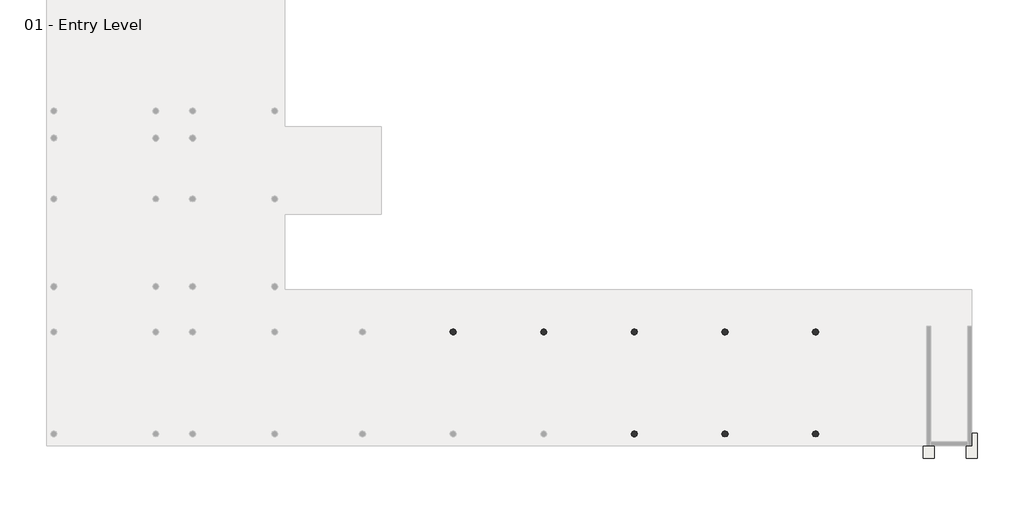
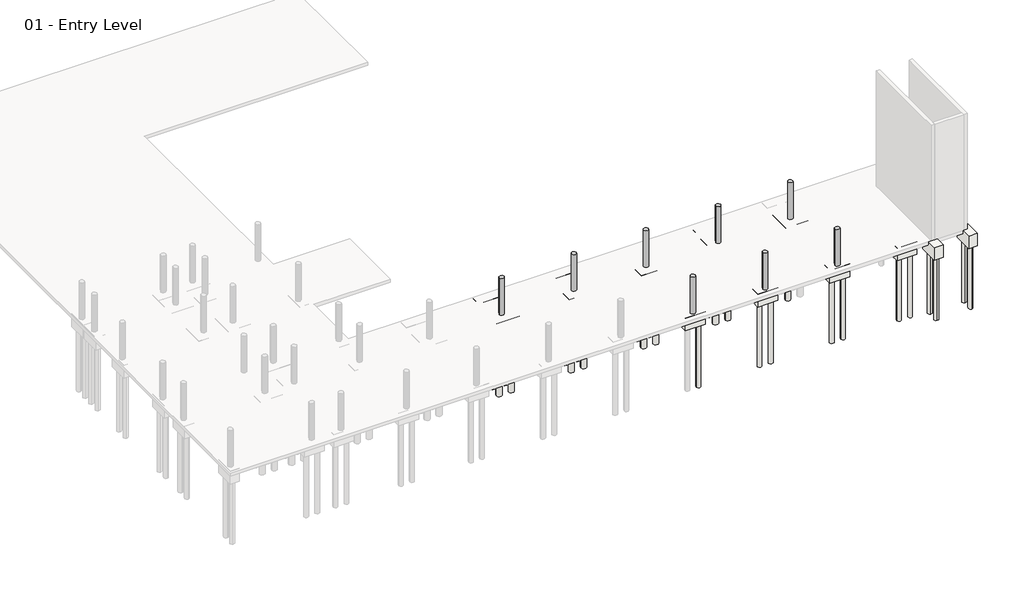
# One storey, part 3 of 6: 55 slabs, 8 columns.
"""IFC4 building model written with IfcOpenShell, lengths in millimetres."""

from ifc_helpers import new_model, si_unit, point, frame, frame_2d, origin, origin_with_axes, place, context, project, spatial, polyline, circle_curve, trimmed, segment, composite_curve, outline, extrude, element, save

model = new_model("IFC4")

# Units and contexts
model_context = context("Model", 3, world=origin())
ifc_project = project(units=[si_unit("LENGTHUNIT", "METRE", prefix="MILLI")], contexts=[model_context])

# Site, building, storey
site = spatial("IfcSite", under=ifc_project)
building = spatial("IfcBuilding", under=site)
storey = spatial("IfcBuildingStorey", under=building, Name="01 - Entry Level", Elevation=0.0)

# Columns
placement = place(None, origin())
element("IfcColumn", 1, ObjectType="M_Concrete-Round-Column : 450mm", at=placement, inside=storey, context=model_context, shape_type="SweptSolid", body=[
    extrude(outline(composite_curve([segment(trimmed(circle_curve(frame_2d((19449.2005584, -15319.8613801)), 225.0), [point((19674.2005584, -15319.8613801))], [point((19224.2005584, -15319.8613801))], False, "CARTESIAN"), True, "CONTINUOUS"), segment(trimmed(circle_curve(frame_2d((19449.2005584, -15319.8613801)), 225.0), [point((19224.2005584, -15319.8613801))], [point((19674.2005584, -15319.8613801))], False, "CARTESIAN"), True, "CONTINUOUS")], self_intersect=False)), origin_with_axes(), (0.0, 0.0, 1.0), 3500.0),
])
element("IfcColumn", 2, ObjectType="M_Concrete-Round-Column : 450mm", at=placement, inside=storey, context=model_context, shape_type="SweptSolid", body=[
    extrude(outline(composite_curve([segment(trimmed(circle_curve(frame_2d((25951.6005584, -15319.8613801)), 225.0), [point((26176.6005584, -15319.8613801))], [point((25726.6005584, -15319.8613801))], False, "CARTESIAN"), True, "CONTINUOUS"), segment(trimmed(circle_curve(frame_2d((25951.6005584, -15319.8613801)), 225.0), [point((25726.6005584, -15319.8613801))], [point((26176.6005584, -15319.8613801))], False, "CARTESIAN"), True, "CONTINUOUS")], self_intersect=False)), origin_with_axes(), (0.0, 0.0, 1.0), 3500.0),
])
element("IfcColumn", 3, ObjectType="M_Concrete-Round-Column : 450mm", at=placement, inside=storey, context=model_context, shape_type="SweptSolid", body=[
    extrude(outline(composite_curve([segment(trimmed(circle_curve(frame_2d((32454.0005584, -15319.8613801)), 225.0), [point((32679.0005584, -15319.8613801))], [point((32229.0005584, -15319.8613801))], False, "CARTESIAN"), True, "CONTINUOUS"), segment(trimmed(circle_curve(frame_2d((32454.0005584, -15319.8613801)), 225.0), [point((32229.0005584, -15319.8613801))], [point((32679.0005584, -15319.8613801))], False, "CARTESIAN"), True, "CONTINUOUS")], self_intersect=False)), origin_with_axes(), (0.0, 0.0, 1.0), 3500.0),
])
element("IfcColumn", 4, ObjectType="M_Concrete-Round-Column : 450mm", at=placement, inside=storey, context=model_context, shape_type="SweptSolid", body=[
    extrude(outline(composite_curve([segment(trimmed(circle_curve(frame_2d((32454.0005584, -22635.0613801)), 225.0), [point((32679.0005584, -22635.0613801))], [point((32229.0005584, -22635.0613801))], False, "CARTESIAN"), True, "CONTINUOUS"), segment(trimmed(circle_curve(frame_2d((32454.0005584, -22635.0613801)), 225.0), [point((32229.0005584, -22635.0613801))], [point((32679.0005584, -22635.0613801))], False, "CARTESIAN"), True, "CONTINUOUS")], self_intersect=False)), origin_with_axes(), (0.0, 0.0, 1.0), 3500.0),
])
element("IfcColumn", 5, ObjectType="M_Concrete-Round-Column : 450mm", at=placement, inside=storey, context=model_context, shape_type="SweptSolid", body=[
    extrude(outline(composite_curve([segment(trimmed(circle_curve(frame_2d((38956.4005584, -15319.8613801)), 225.0), [point((39181.4005584, -15319.8613801))], [point((38731.4005584, -15319.8613801))], False, "CARTESIAN"), True, "CONTINUOUS"), segment(trimmed(circle_curve(frame_2d((38956.4005584, -15319.8613801)), 225.0), [point((38731.4005584, -15319.8613801))], [point((39181.4005584, -15319.8613801))], False, "CARTESIAN"), True, "CONTINUOUS")], self_intersect=False)), origin_with_axes(), (0.0, 0.0, 1.0), 3500.0),
])
element("IfcColumn", 6, ObjectType="M_Concrete-Round-Column : 450mm", at=placement, inside=storey, context=model_context, shape_type="SweptSolid", body=[
    extrude(outline(composite_curve([segment(trimmed(circle_curve(frame_2d((38956.4005584, -22635.0613801)), 225.0), [point((39181.4005584, -22635.0613801))], [point((38731.4005584, -22635.0613801))], False, "CARTESIAN"), True, "CONTINUOUS"), segment(trimmed(circle_curve(frame_2d((38956.4005584, -22635.0613801)), 225.0), [point((38731.4005584, -22635.0613801))], [point((39181.4005584, -22635.0613801))], False, "CARTESIAN"), True, "CONTINUOUS")], self_intersect=False)), origin_with_axes(), (0.0, 0.0, 1.0), 3500.0),
])
element("IfcColumn", 7, ObjectType="M_Concrete-Round-Column : 450mm", at=placement, inside=storey, context=model_context, shape_type="SweptSolid", body=[
    extrude(outline(composite_curve([segment(trimmed(circle_curve(frame_2d((45458.8005584, -15319.8613801)), 225.0), [point((45683.8005584, -15319.8613801))], [point((45233.8005584, -15319.8613801))], False, "CARTESIAN"), True, "CONTINUOUS"), segment(trimmed(circle_curve(frame_2d((45458.8005584, -15319.8613801)), 225.0), [point((45233.8005584, -15319.8613801))], [point((45683.8005584, -15319.8613801))], False, "CARTESIAN"), True, "CONTINUOUS")], self_intersect=False)), origin_with_axes(), (0.0, 0.0, 1.0), 3500.0),
])
element("IfcColumn", 8, ObjectType="M_Concrete-Round-Column : 450mm", at=placement, inside=storey, context=model_context, shape_type="SweptSolid", body=[
    extrude(outline(composite_curve([segment(trimmed(circle_curve(frame_2d((45458.8005584, -22635.0613801)), 225.0), [point((45683.8005584, -22635.0613801))], [point((45233.8005584, -22635.0613801))], False, "CARTESIAN"), True, "CONTINUOUS"), segment(trimmed(circle_curve(frame_2d((45458.8005584, -22635.0613801)), 225.0), [point((45233.8005584, -22635.0613801))], [point((45683.8005584, -22635.0613801))], False, "CARTESIAN"), True, "CONTINUOUS")], self_intersect=False)), origin_with_axes(), (0.0, 0.0, 1.0), 3500.0),
])

# Slabs
element("IfcSlab", 9, ObjectType="M_Pile Cap-2 Pile : 800 x 1800 x 900mm", at=placement, inside=storey, context=model_context, shape_type="SweptSolid", body=[
    extrude(outline(polyline([(56272.578114, -22595.0613801), (57072.578114, -22595.0613801), (57072.578114, -24395.0613801), (56272.578114, -24395.0613801), (56272.578114, -22595.0613801)])), frame((0.0, 0.0, -1200.0), z_axis=(0.0, 0.0, 1.0), x_axis=(1.0, 0.0, 0.0)), (0.0, 0.0, 1.0), 1200.0),
])
element("IfcSlab", 10, ObjectType="M_Pile Cap-2 Pile : 800 x 1800 x 900mm", at=placement, inside=storey, context=model_context, shape_type="SweptSolid", body=[
    extrude(outline(polyline([(53179.578114, -22595.0613801), (53979.578114, -22595.0613801), (53979.578114, -24395.0613801), (53179.578114, -24395.0613801), (53179.578114, -22595.0613801)])), frame((0.0, 0.0, -1200.0), z_axis=(0.0, 0.0, 1.0), x_axis=(1.0, 0.0, 0.0)), (0.0, 0.0, 1.0), 1200.0),
])
element("IfcSlab", 11, ObjectType="M_Pile Cap-2 Pile : 800 x 1800 x 900mm", at=placement, inside=storey, context=model_context, shape_type="SweptSolid", body=[
    extrude(outline(polyline([(33354.0005584, -22235.0613801), (33354.0005584, -23035.0613801), (31554.0005584, -23035.0613801), (31554.0005584, -22235.0613801), (33354.0005584, -22235.0613801)])), frame((0.0, 0.0, -1200.0), z_axis=(0.0, 0.0, 1.0), x_axis=(1.0, 0.0, 0.0)), (0.0, 0.0, 1.0), 1200.0),
])
element("IfcSlab", 12, ObjectType="M_Pile Cap-2 Pile : 800 x 1800 x 900mm", at=placement, inside=storey, context=model_context, shape_type="SweptSolid", body=[
    extrude(outline(polyline([(39856.4005584, -22235.0613801), (39856.4005584, -23035.0613801), (38056.4005584, -23035.0613801), (38056.4005584, -22235.0613801), (39856.4005584, -22235.0613801)])), frame((0.0, 0.0, -1200.0), z_axis=(0.0, 0.0, 1.0), x_axis=(1.0, 0.0, 0.0)), (0.0, 0.0, 1.0), 1200.0),
])
element("IfcSlab", 13, ObjectType="M_Pile Cap-2 Pile : 800 x 1800 x 900mm", at=placement, inside=storey, context=model_context, shape_type="SweptSolid", body=[
    extrude(outline(polyline([(46358.8005584, -22235.0613801), (46358.8005584, -23035.0613801), (44558.8005584, -23035.0613801), (44558.8005584, -22235.0613801), (46358.8005584, -22235.0613801)])), frame((0.0, 0.0, -1200.0), z_axis=(0.0, 0.0, 1.0), x_axis=(1.0, 0.0, 0.0)), (0.0, 0.0, 1.0), 1200.0),
])
element("IfcSlab", 14, ObjectType="M_Pile Cap-2 Pile : 800 x 1800 x 900mm", at=placement, inside=storey, context=model_context, shape_type="SweptSolid", body=[
    extrude(outline(polyline([(20349.2005584, -12468.6613801), (20349.2005584, -13268.6613801), (18549.2005584, -13268.6613801), (18549.2005584, -12468.6613801), (20349.2005584, -12468.6613801)])), frame((0.0, 0.0, -1200.0), z_axis=(0.0, 0.0, 1.0), x_axis=(1.0, 0.0, 0.0)), (0.0, 0.0, 1.0), 1200.0),
])
element("IfcSlab", 15, ObjectType="M_Pile Cap-2 Pile : 800 x 1800 x 900mm", at=placement, inside=storey, context=model_context, shape_type="SweptSolid", body=[
    extrude(outline(polyline([(26851.6005584, -12468.6613801), (26851.6005584, -13268.6613801), (25051.6005584, -13268.6613801), (25051.6005584, -12468.6613801), (26851.6005584, -12468.6613801)])), frame((0.0, 0.0, -1200.0), z_axis=(0.0, 0.0, 1.0), x_axis=(1.0, 0.0, 0.0)), (0.0, 0.0, 1.0), 1200.0),
])
element("IfcSlab", 16, ObjectType="M_Pile Cap-2 Pile : 800 x 1800 x 900mm", at=placement, inside=storey, context=model_context, shape_type="SweptSolid", body=[
    extrude(outline(polyline([(33354.0005584, -12468.6613801), (33354.0005584, -13268.6613801), (31554.0005584, -13268.6613801), (31554.0005584, -12468.6613801), (33354.0005584, -12468.6613801)])), frame((0.0, 0.0, -1200.0), z_axis=(0.0, 0.0, 1.0), x_axis=(1.0, 0.0, 0.0)), (0.0, 0.0, 1.0), 1200.0),
])
element("IfcSlab", 17, ObjectType="M_Pile Cap-2 Pile : 800 x 1800 x 900mm", at=placement, inside=storey, context=model_context, shape_type="SweptSolid", body=[
    extrude(outline(polyline([(39856.4005584, -12468.6613801), (39856.4005584, -13268.6613801), (38056.4005584, -13268.6613801), (38056.4005584, -12468.6613801), (39856.4005584, -12468.6613801)])), frame((0.0, 0.0, -1200.0), z_axis=(0.0, 0.0, 1.0), x_axis=(1.0, 0.0, 0.0)), (0.0, 0.0, 1.0), 1200.0),
])
element("IfcSlab", 18, ObjectType="M_Pile Cap-2 Pile : 800 x 1800 x 900mm", at=placement, inside=storey, context=model_context, shape_type="SweptSolid", body=[
    extrude(outline(polyline([(50611.8999097, -23035.0613801), (50611.8999097, -22235.0613801), (52411.8999097, -22235.0613801), (52411.8999097, -23035.0613801), (50611.8999097, -23035.0613801)])), frame((0.0, 0.0, -1200.0), z_axis=(0.0, 0.0, 1.0), x_axis=(1.0, 0.0, 0.0)), (0.0, 0.0, 1.0), 1200.0),
])
element("IfcSlab", 19, ObjectType="M_Pile Cap-4 Pile : 2000 x 2000 x 900mm", at=placement, inside=storey, context=model_context, shape_type="SweptSolid", body=[
    extrude(outline(polyline([(20449.2005584, -14319.8613801), (20449.2005584, -16319.8613801), (18449.2005584, -16319.8613801), (18449.2005584, -14319.8613801), (20449.2005584, -14319.8613801)])), frame((0.0, 0.0, -1200.0), z_axis=(0.0, 0.0, 1.0), x_axis=(1.0, 0.0, 0.0)), (0.0, 0.0, 1.0), 1200.0),
])
element("IfcSlab", 20, ObjectType="M_Pile Cap-4 Pile : 2000 x 2000 x 900mm", at=placement, inside=storey, context=model_context, shape_type="SweptSolid", body=[
    extrude(outline(polyline([(26951.6005584, -14319.8613801), (26951.6005584, -16319.8613801), (24951.6005584, -16319.8613801), (24951.6005584, -14319.8613801), (26951.6005584, -14319.8613801)])), frame((0.0, 0.0, -1200.0), z_axis=(0.0, 0.0, 1.0), x_axis=(1.0, 0.0, 0.0)), (0.0, 0.0, 1.0), 1200.0),
])
element("IfcSlab", 21, ObjectType="M_Pile Cap-4 Pile : 2000 x 2000 x 900mm", at=placement, inside=storey, context=model_context, shape_type="SweptSolid", body=[
    extrude(outline(polyline([(33454.0005584, -14319.8613801), (33454.0005584, -16319.8613801), (31454.0005584, -16319.8613801), (31454.0005584, -14319.8613801), (33454.0005584, -14319.8613801)])), frame((0.0, 0.0, -1200.0), z_axis=(0.0, 0.0, 1.0), x_axis=(1.0, 0.0, 0.0)), (0.0, 0.0, 1.0), 1200.0),
])
element("IfcSlab", 22, ObjectType="M_Pile Cap-4 Pile : 2000 x 2000 x 900mm", at=placement, inside=storey, context=model_context, shape_type="SweptSolid", body=[
    extrude(outline(polyline([(39956.4005584, -14319.8613801), (39956.4005584, -16319.8613801), (37956.4005584, -16319.8613801), (37956.4005584, -14319.8613801), (39956.4005584, -14319.8613801)])), frame((0.0, 0.0, -1200.0), z_axis=(0.0, 0.0, 1.0), x_axis=(1.0, 0.0, 0.0)), (0.0, 0.0, 1.0), 1200.0),
])
element("IfcSlab", 23, ObjectType="M_Pile Cap-4 Pile : 2000 x 2000 x 900mm", at=placement, inside=storey, context=model_context, shape_type="SweptSolid", body=[
    extrude(outline(polyline([(46458.8005584, -14319.8613801), (46458.8005584, -16319.8613801), (44458.8005584, -16319.8613801), (44458.8005584, -14319.8613801), (46458.8005584, -14319.8613801)])), frame((0.0, 0.0, -1200.0), z_axis=(0.0, 0.0, 1.0), x_axis=(1.0, 0.0, 0.0)), (0.0, 0.0, 1.0), 1200.0),
])
element("IfcSlab", 24, ObjectType="M_Pile-Steel Pipe : 400mm Diameter", at=placement, inside=storey, context=model_context, shape_type="SweptSolid", body=[
    extrude(outline(composite_curve([segment(trimmed(circle_curve(frame_2d((56672.578114, -23995.0613801)), 200.0), [point((56672.578114, -24195.0613801))], [point((56672.578114, -23795.0613801))], False, "CARTESIAN"), True, "CONTINUOUS"), segment(trimmed(circle_curve(frame_2d((56672.578114, -23995.0613801)), 200.0), [point((56672.578114, -23795.0613801))], [point((56672.578114, -24195.0613801))], False, "CARTESIAN"), True, "CONTINUOUS")], self_intersect=False)), frame((0.0, 0.0, -7200.0), z_axis=(0.0, 0.0, 1.0), x_axis=(1.0, 0.0, 0.0)), (0.0, 0.0, 1.0), 6000.0),
])
element("IfcSlab", 25, ObjectType="M_Pile-Steel Pipe : 400mm Diameter", at=placement, inside=storey, context=model_context, shape_type="SweptSolid", body=[
    extrude(outline(composite_curve([segment(trimmed(circle_curve(frame_2d((56672.578114, -22995.0613801)), 200.0), [point((56672.578114, -23195.0613801))], [point((56672.578114, -22795.0613801))], False, "CARTESIAN"), True, "CONTINUOUS"), segment(trimmed(circle_curve(frame_2d((56672.578114, -22995.0613801)), 200.0), [point((56672.578114, -22795.0613801))], [point((56672.578114, -23195.0613801))], False, "CARTESIAN"), True, "CONTINUOUS")], self_intersect=False)), frame((0.0, 0.0, -7200.0), z_axis=(0.0, 0.0, 1.0), x_axis=(1.0, 0.0, 0.0)), (0.0, 0.0, 1.0), 6000.0),
])
element("IfcSlab", 26, ObjectType="M_Pile-Steel Pipe : 400mm Diameter", at=placement, inside=storey, context=model_context, shape_type="SweptSolid", body=[
    extrude(outline(composite_curve([segment(trimmed(circle_curve(frame_2d((53579.578114, -23995.0613801)), 200.0), [point((53579.578114, -24195.0613801))], [point((53579.578114, -23795.0613801))], False, "CARTESIAN"), True, "CONTINUOUS"), segment(trimmed(circle_curve(frame_2d((53579.578114, -23995.0613801)), 200.0), [point((53579.578114, -23795.0613801))], [point((53579.578114, -24195.0613801))], False, "CARTESIAN"), True, "CONTINUOUS")], self_intersect=False)), frame((0.0, 0.0, -7200.0), z_axis=(0.0, 0.0, 1.0), x_axis=(1.0, 0.0, 0.0)), (0.0, 0.0, 1.0), 6000.0),
])
element("IfcSlab", 27, ObjectType="M_Pile-Steel Pipe : 400mm Diameter", at=placement, inside=storey, context=model_context, shape_type="SweptSolid", body=[
    extrude(outline(composite_curve([segment(trimmed(circle_curve(frame_2d((53579.578114, -22995.0613801)), 200.0), [point((53579.578114, -23195.0613801))], [point((53579.578114, -22795.0613801))], False, "CARTESIAN"), True, "CONTINUOUS"), segment(trimmed(circle_curve(frame_2d((53579.578114, -22995.0613801)), 200.0), [point((53579.578114, -22795.0613801))], [point((53579.578114, -23195.0613801))], False, "CARTESIAN"), True, "CONTINUOUS")], self_intersect=False)), frame((0.0, 0.0, -7200.0), z_axis=(0.0, 0.0, 1.0), x_axis=(1.0, 0.0, 0.0)), (0.0, 0.0, 1.0), 6000.0),
])
element("IfcSlab", 28, ObjectType="M_Pile-Steel Pipe : 400mm Diameter", at=placement, inside=storey, context=model_context, shape_type="SweptSolid", body=[
    extrude(outline(composite_curve([segment(trimmed(circle_curve(frame_2d((32954.0005584, -22635.0613801)), 200.0), [point((32754.0005584, -22635.0613801))], [point((33154.0005584, -22635.0613801))], False, "CARTESIAN"), True, "CONTINUOUS"), segment(trimmed(circle_curve(frame_2d((32954.0005584, -22635.0613801)), 200.0), [point((33154.0005584, -22635.0613801))], [point((32754.0005584, -22635.0613801))], False, "CARTESIAN"), True, "CONTINUOUS")], self_intersect=False)), frame((0.0, 0.0, -7200.0), z_axis=(0.0, 0.0, 1.0), x_axis=(1.0, 0.0, 0.0)), (0.0, 0.0, 1.0), 6000.0),
])
element("IfcSlab", 29, ObjectType="M_Pile-Steel Pipe : 400mm Diameter", at=placement, inside=storey, context=model_context, shape_type="SweptSolid", body=[
    extrude(outline(composite_curve([segment(trimmed(circle_curve(frame_2d((38456.4005584, -22635.0613801)), 200.0), [point((38256.4005584, -22635.0613801))], [point((38656.4005584, -22635.0613801))], False, "CARTESIAN"), True, "CONTINUOUS"), segment(trimmed(circle_curve(frame_2d((38456.4005584, -22635.0613801)), 200.0), [point((38656.4005584, -22635.0613801))], [point((38256.4005584, -22635.0613801))], False, "CARTESIAN"), True, "CONTINUOUS")], self_intersect=False)), frame((0.0, 0.0, -7200.0), z_axis=(0.0, 0.0, 1.0), x_axis=(1.0, 0.0, 0.0)), (0.0, 0.0, 1.0), 6000.0),
])
element("IfcSlab", 30, ObjectType="M_Pile-Steel Pipe : 400mm Diameter", at=placement, inside=storey, context=model_context, shape_type="SweptSolid", body=[
    extrude(outline(composite_curve([segment(trimmed(circle_curve(frame_2d((39456.4005584, -22635.0613801)), 200.0), [point((39256.4005584, -22635.0613801))], [point((39656.4005584, -22635.0613801))], False, "CARTESIAN"), True, "CONTINUOUS"), segment(trimmed(circle_curve(frame_2d((39456.4005584, -22635.0613801)), 200.0), [point((39656.4005584, -22635.0613801))], [point((39256.4005584, -22635.0613801))], False, "CARTESIAN"), True, "CONTINUOUS")], self_intersect=False)), frame((0.0, 0.0, -7200.0), z_axis=(0.0, 0.0, 1.0), x_axis=(1.0, 0.0, 0.0)), (0.0, 0.0, 1.0), 6000.0),
])
element("IfcSlab", 31, ObjectType="M_Pile-Steel Pipe : 400mm Diameter", at=placement, inside=storey, context=model_context, shape_type="SweptSolid", body=[
    extrude(outline(composite_curve([segment(trimmed(circle_curve(frame_2d((44958.8005584, -22635.0613801)), 200.0), [point((44758.8005584, -22635.0613801))], [point((45158.8005584, -22635.0613801))], False, "CARTESIAN"), True, "CONTINUOUS"), segment(trimmed(circle_curve(frame_2d((44958.8005584, -22635.0613801)), 200.0), [point((45158.8005584, -22635.0613801))], [point((44758.8005584, -22635.0613801))], False, "CARTESIAN"), True, "CONTINUOUS")], self_intersect=False)), frame((0.0, 0.0, -7200.0), z_axis=(0.0, 0.0, 1.0), x_axis=(1.0, 0.0, 0.0)), (0.0, 0.0, 1.0), 6000.0),
])
element("IfcSlab", 32, ObjectType="M_Pile-Steel Pipe : 400mm Diameter", at=placement, inside=storey, context=model_context, shape_type="SweptSolid", body=[
    extrude(outline(composite_curve([segment(trimmed(circle_curve(frame_2d((45958.8005584, -22635.0613801)), 200.0), [point((45758.8005584, -22635.0613801))], [point((46158.8005584, -22635.0613801))], False, "CARTESIAN"), True, "CONTINUOUS"), segment(trimmed(circle_curve(frame_2d((45958.8005584, -22635.0613801)), 200.0), [point((46158.8005584, -22635.0613801))], [point((45758.8005584, -22635.0613801))], False, "CARTESIAN"), True, "CONTINUOUS")], self_intersect=False)), frame((0.0, 0.0, -7200.0), z_axis=(0.0, 0.0, 1.0), x_axis=(1.0, 0.0, 0.0)), (0.0, 0.0, 1.0), 6000.0),
])
element("IfcSlab", 33, ObjectType="M_Pile-Steel Pipe : 400mm Diameter", at=placement, inside=storey, context=model_context, shape_type="SweptSolid", body=[
    extrude(outline(composite_curve([segment(trimmed(circle_curve(frame_2d((18949.2005584, -12868.6613801)), 200.0), [point((18749.2005584, -12868.6613801))], [point((19149.2005584, -12868.6613801))], False, "CARTESIAN"), True, "CONTINUOUS"), segment(trimmed(circle_curve(frame_2d((18949.2005584, -12868.6613801)), 200.0), [point((19149.2005584, -12868.6613801))], [point((18749.2005584, -12868.6613801))], False, "CARTESIAN"), True, "CONTINUOUS")], self_intersect=False)), frame((0.0, 0.0, -7200.0), z_axis=(0.0, 0.0, 1.0), x_axis=(1.0, 0.0, 0.0)), (0.0, 0.0, 1.0), 6000.0),
])
element("IfcSlab", 34, ObjectType="M_Pile-Steel Pipe : 400mm Diameter", at=placement, inside=storey, context=model_context, shape_type="SweptSolid", body=[
    extrude(outline(composite_curve([segment(trimmed(circle_curve(frame_2d((19949.2005584, -12868.6613801)), 200.0), [point((19749.2005584, -12868.6613801))], [point((20149.2005584, -12868.6613801))], False, "CARTESIAN"), True, "CONTINUOUS"), segment(trimmed(circle_curve(frame_2d((19949.2005584, -12868.6613801)), 200.0), [point((20149.2005584, -12868.6613801))], [point((19749.2005584, -12868.6613801))], False, "CARTESIAN"), True, "CONTINUOUS")], self_intersect=False)), frame((0.0, 0.0, -7200.0), z_axis=(0.0, 0.0, 1.0), x_axis=(1.0, 0.0, 0.0)), (0.0, 0.0, 1.0), 6000.0),
])
element("IfcSlab", 35, ObjectType="M_Pile-Steel Pipe : 400mm Diameter", at=placement, inside=storey, context=model_context, shape_type="SweptSolid", body=[
    extrude(outline(composite_curve([segment(trimmed(circle_curve(frame_2d((25451.6005584, -12868.6613801)), 200.0), [point((25251.6005584, -12868.6613801))], [point((25651.6005584, -12868.6613801))], False, "CARTESIAN"), True, "CONTINUOUS"), segment(trimmed(circle_curve(frame_2d((25451.6005584, -12868.6613801)), 200.0), [point((25651.6005584, -12868.6613801))], [point((25251.6005584, -12868.6613801))], False, "CARTESIAN"), True, "CONTINUOUS")], self_intersect=False)), frame((0.0, 0.0, -7200.0), z_axis=(0.0, 0.0, 1.0), x_axis=(1.0, 0.0, 0.0)), (0.0, 0.0, 1.0), 6000.0),
])
element("IfcSlab", 36, ObjectType="M_Pile-Steel Pipe : 400mm Diameter", at=placement, inside=storey, context=model_context, shape_type="SweptSolid", body=[
    extrude(outline(composite_curve([segment(trimmed(circle_curve(frame_2d((26451.6005584, -12868.6613801)), 200.0), [point((26251.6005584, -12868.6613801))], [point((26651.6005584, -12868.6613801))], False, "CARTESIAN"), True, "CONTINUOUS"), segment(trimmed(circle_curve(frame_2d((26451.6005584, -12868.6613801)), 200.0), [point((26651.6005584, -12868.6613801))], [point((26251.6005584, -12868.6613801))], False, "CARTESIAN"), True, "CONTINUOUS")], self_intersect=False)), frame((0.0, 0.0, -7200.0), z_axis=(0.0, 0.0, 1.0), x_axis=(1.0, 0.0, 0.0)), (0.0, 0.0, 1.0), 6000.0),
])
element("IfcSlab", 37, ObjectType="M_Pile-Steel Pipe : 400mm Diameter", at=placement, inside=storey, context=model_context, shape_type="SweptSolid", body=[
    extrude(outline(composite_curve([segment(trimmed(circle_curve(frame_2d((31954.0005584, -12868.6613801)), 200.0), [point((31754.0005584, -12868.6613801))], [point((32154.0005584, -12868.6613801))], False, "CARTESIAN"), True, "CONTINUOUS"), segment(trimmed(circle_curve(frame_2d((31954.0005584, -12868.6613801)), 200.0), [point((32154.0005584, -12868.6613801))], [point((31754.0005584, -12868.6613801))], False, "CARTESIAN"), True, "CONTINUOUS")], self_intersect=False)), frame((0.0, 0.0, -7200.0), z_axis=(0.0, 0.0, 1.0), x_axis=(1.0, 0.0, 0.0)), (0.0, 0.0, 1.0), 6000.0),
])
element("IfcSlab", 38, ObjectType="M_Pile-Steel Pipe : 400mm Diameter", at=placement, inside=storey, context=model_context, shape_type="SweptSolid", body=[
    extrude(outline(composite_curve([segment(trimmed(circle_curve(frame_2d((32954.0005584, -12868.6613801)), 200.0), [point((32754.0005584, -12868.6613801))], [point((33154.0005584, -12868.6613801))], False, "CARTESIAN"), True, "CONTINUOUS"), segment(trimmed(circle_curve(frame_2d((32954.0005584, -12868.6613801)), 200.0), [point((33154.0005584, -12868.6613801))], [point((32754.0005584, -12868.6613801))], False, "CARTESIAN"), True, "CONTINUOUS")], self_intersect=False)), frame((0.0, 0.0, -7200.0), z_axis=(0.0, 0.0, 1.0), x_axis=(1.0, 0.0, 0.0)), (0.0, 0.0, 1.0), 6000.0),
])
element("IfcSlab", 39, ObjectType="M_Pile-Steel Pipe : 400mm Diameter", at=placement, inside=storey, context=model_context, shape_type="SweptSolid", body=[
    extrude(outline(composite_curve([segment(trimmed(circle_curve(frame_2d((38456.4005584, -12868.6613801)), 200.0), [point((38256.4005584, -12868.6613801))], [point((38656.4005584, -12868.6613801))], False, "CARTESIAN"), True, "CONTINUOUS"), segment(trimmed(circle_curve(frame_2d((38456.4005584, -12868.6613801)), 200.0), [point((38656.4005584, -12868.6613801))], [point((38256.4005584, -12868.6613801))], False, "CARTESIAN"), True, "CONTINUOUS")], self_intersect=False)), frame((0.0, 0.0, -7200.0), z_axis=(0.0, 0.0, 1.0), x_axis=(1.0, 0.0, 0.0)), (0.0, 0.0, 1.0), 6000.0),
])
element("IfcSlab", 40, ObjectType="M_Pile-Steel Pipe : 400mm Diameter", at=placement, inside=storey, context=model_context, shape_type="SweptSolid", body=[
    extrude(outline(composite_curve([segment(trimmed(circle_curve(frame_2d((39456.4005584, -12868.6613801)), 200.0), [point((39256.4005584, -12868.6613801))], [point((39656.4005584, -12868.6613801))], False, "CARTESIAN"), True, "CONTINUOUS"), segment(trimmed(circle_curve(frame_2d((39456.4005584, -12868.6613801)), 200.0), [point((39656.4005584, -12868.6613801))], [point((39256.4005584, -12868.6613801))], False, "CARTESIAN"), True, "CONTINUOUS")], self_intersect=False)), frame((0.0, 0.0, -7200.0), z_axis=(0.0, 0.0, 1.0), x_axis=(1.0, 0.0, 0.0)), (0.0, 0.0, 1.0), 6000.0),
])
element("IfcSlab", 41, ObjectType="M_Pile-Steel Pipe : 400mm Diameter", at=placement, inside=storey, context=model_context, shape_type="SweptSolid", body=[
    extrude(outline(composite_curve([segment(trimmed(circle_curve(frame_2d((52011.8999097, -22635.0613801)), 200.0), [point((52211.8999097, -22635.0613801))], [point((51811.8999097, -22635.0613801))], False, "CARTESIAN"), True, "CONTINUOUS"), segment(trimmed(circle_curve(frame_2d((52011.8999097, -22635.0613801)), 200.0), [point((51811.8999097, -22635.0613801))], [point((52211.8999097, -22635.0613801))], False, "CARTESIAN"), True, "CONTINUOUS")], self_intersect=False)), frame((0.0, 0.0, -7200.0), z_axis=(0.0, 0.0, 1.0), x_axis=(1.0, 0.0, 0.0)), (0.0, 0.0, 1.0), 6000.0),
])
element("IfcSlab", 42, ObjectType="M_Pile-Steel Pipe : 400mm Diameter", at=placement, inside=storey, context=model_context, shape_type="SweptSolid", body=[
    extrude(outline(composite_curve([segment(trimmed(circle_curve(frame_2d((51011.8999097, -22635.0613801)), 200.0), [point((51211.8999097, -22635.0613801))], [point((50811.8999097, -22635.0613801))], False, "CARTESIAN"), True, "CONTINUOUS"), segment(trimmed(circle_curve(frame_2d((51011.8999097, -22635.0613801)), 200.0), [point((50811.8999097, -22635.0613801))], [point((51211.8999097, -22635.0613801))], False, "CARTESIAN"), True, "CONTINUOUS")], self_intersect=False)), frame((0.0, 0.0, -7200.0), z_axis=(0.0, 0.0, 1.0), x_axis=(1.0, 0.0, 0.0)), (0.0, 0.0, 1.0), 6000.0),
])
element("IfcSlab", 43, ObjectType="M_Pile-Steel Pipe : 500mm Diameter", at=placement, inside=storey, context=model_context, shape_type="SweptSolid", body=[
    extrude(outline(composite_curve([segment(trimmed(circle_curve(frame_2d((18899.2005584, -15869.8613801)), 250.0), [point((18649.2005584, -15869.8613801))], [point((19149.2005584, -15869.8613801))], False, "CARTESIAN"), True, "CONTINUOUS"), segment(trimmed(circle_curve(frame_2d((18899.2005584, -15869.8613801)), 250.0), [point((19149.2005584, -15869.8613801))], [point((18649.2005584, -15869.8613801))], False, "CARTESIAN"), True, "CONTINUOUS")], self_intersect=False)), frame((0.0, 0.0, -7200.0), z_axis=(0.0, 0.0, 1.0), x_axis=(1.0, 0.0, 0.0)), (0.0, 0.0, 1.0), 6000.0),
])
element("IfcSlab", 44, ObjectType="M_Pile-Steel Pipe : 500mm Diameter", at=placement, inside=storey, context=model_context, shape_type="SweptSolid", body=[
    extrude(outline(composite_curve([segment(trimmed(circle_curve(frame_2d((19999.2005584, -15869.8613801)), 250.0), [point((19749.2005584, -15869.8613801))], [point((20249.2005584, -15869.8613801))], False, "CARTESIAN"), True, "CONTINUOUS"), segment(trimmed(circle_curve(frame_2d((19999.2005584, -15869.8613801)), 250.0), [point((20249.2005584, -15869.8613801))], [point((19749.2005584, -15869.8613801))], False, "CARTESIAN"), True, "CONTINUOUS")], self_intersect=False)), frame((0.0, 0.0, -7200.0), z_axis=(0.0, 0.0, 1.0), x_axis=(1.0, 0.0, 0.0)), (0.0, 0.0, 1.0), 6000.0),
])
element("IfcSlab", 45, ObjectType="M_Pile-Steel Pipe : 500mm Diameter", at=placement, inside=storey, context=model_context, shape_type="SweptSolid", body=[
    extrude(outline(composite_curve([segment(trimmed(circle_curve(frame_2d((19999.2005584, -14769.8613801)), 250.0), [point((19749.2005584, -14769.8613801))], [point((20249.2005584, -14769.8613801))], False, "CARTESIAN"), True, "CONTINUOUS"), segment(trimmed(circle_curve(frame_2d((19999.2005584, -14769.8613801)), 250.0), [point((20249.2005584, -14769.8613801))], [point((19749.2005584, -14769.8613801))], False, "CARTESIAN"), True, "CONTINUOUS")], self_intersect=False)), frame((0.0, 0.0, -7200.0), z_axis=(0.0, 0.0, 1.0), x_axis=(1.0, 0.0, 0.0)), (0.0, 0.0, 1.0), 6000.0),
])
element("IfcSlab", 46, ObjectType="M_Pile-Steel Pipe : 500mm Diameter", at=placement, inside=storey, context=model_context, shape_type="SweptSolid", body=[
    extrude(outline(composite_curve([segment(trimmed(circle_curve(frame_2d((18899.2005584, -14769.8613801)), 250.0), [point((18649.2005584, -14769.8613801))], [point((19149.2005584, -14769.8613801))], False, "CARTESIAN"), True, "CONTINUOUS"), segment(trimmed(circle_curve(frame_2d((18899.2005584, -14769.8613801)), 250.0), [point((19149.2005584, -14769.8613801))], [point((18649.2005584, -14769.8613801))], False, "CARTESIAN"), True, "CONTINUOUS")], self_intersect=False)), frame((0.0, 0.0, -7200.0), z_axis=(0.0, 0.0, 1.0), x_axis=(1.0, 0.0, 0.0)), (0.0, 0.0, 1.0), 6000.0),
])
element("IfcSlab", 47, ObjectType="M_Pile-Steel Pipe : 500mm Diameter", at=placement, inside=storey, context=model_context, shape_type="SweptSolid", body=[
    extrude(outline(composite_curve([segment(trimmed(circle_curve(frame_2d((25401.6005584, -15869.8613801)), 250.0), [point((25151.6005584, -15869.8613801))], [point((25651.6005584, -15869.8613801))], False, "CARTESIAN"), True, "CONTINUOUS"), segment(trimmed(circle_curve(frame_2d((25401.6005584, -15869.8613801)), 250.0), [point((25651.6005584, -15869.8613801))], [point((25151.6005584, -15869.8613801))], False, "CARTESIAN"), True, "CONTINUOUS")], self_intersect=False)), frame((0.0, 0.0, -7200.0), z_axis=(0.0, 0.0, 1.0), x_axis=(1.0, 0.0, 0.0)), (0.0, 0.0, 1.0), 6000.0),
])
element("IfcSlab", 48, ObjectType="M_Pile-Steel Pipe : 500mm Diameter", at=placement, inside=storey, context=model_context, shape_type="SweptSolid", body=[
    extrude(outline(composite_curve([segment(trimmed(circle_curve(frame_2d((26501.6005584, -15869.8613801)), 250.0), [point((26251.6005584, -15869.8613801))], [point((26751.6005584, -15869.8613801))], False, "CARTESIAN"), True, "CONTINUOUS"), segment(trimmed(circle_curve(frame_2d((26501.6005584, -15869.8613801)), 250.0), [point((26751.6005584, -15869.8613801))], [point((26251.6005584, -15869.8613801))], False, "CARTESIAN"), True, "CONTINUOUS")], self_intersect=False)), frame((0.0, 0.0, -7200.0), z_axis=(0.0, 0.0, 1.0), x_axis=(1.0, 0.0, 0.0)), (0.0, 0.0, 1.0), 6000.0),
])
element("IfcSlab", 49, ObjectType="M_Pile-Steel Pipe : 500mm Diameter", at=placement, inside=storey, context=model_context, shape_type="SweptSolid", body=[
    extrude(outline(composite_curve([segment(trimmed(circle_curve(frame_2d((26501.6005584, -14769.8613801)), 250.0), [point((26251.6005584, -14769.8613801))], [point((26751.6005584, -14769.8613801))], False, "CARTESIAN"), True, "CONTINUOUS"), segment(trimmed(circle_curve(frame_2d((26501.6005584, -14769.8613801)), 250.0), [point((26751.6005584, -14769.8613801))], [point((26251.6005584, -14769.8613801))], False, "CARTESIAN"), True, "CONTINUOUS")], self_intersect=False)), frame((0.0, 0.0, -7200.0), z_axis=(0.0, 0.0, 1.0), x_axis=(1.0, 0.0, 0.0)), (0.0, 0.0, 1.0), 6000.0),
])
element("IfcSlab", 50, ObjectType="M_Pile-Steel Pipe : 500mm Diameter", at=placement, inside=storey, context=model_context, shape_type="SweptSolid", body=[
    extrude(outline(composite_curve([segment(trimmed(circle_curve(frame_2d((25401.6005584, -14769.8613801)), 250.0), [point((25151.6005584, -14769.8613801))], [point((25651.6005584, -14769.8613801))], False, "CARTESIAN"), True, "CONTINUOUS"), segment(trimmed(circle_curve(frame_2d((25401.6005584, -14769.8613801)), 250.0), [point((25651.6005584, -14769.8613801))], [point((25151.6005584, -14769.8613801))], False, "CARTESIAN"), True, "CONTINUOUS")], self_intersect=False)), frame((0.0, 0.0, -7200.0), z_axis=(0.0, 0.0, 1.0), x_axis=(1.0, 0.0, 0.0)), (0.0, 0.0, 1.0), 6000.0),
])
element("IfcSlab", 51, ObjectType="M_Pile-Steel Pipe : 500mm Diameter", at=placement, inside=storey, context=model_context, shape_type="SweptSolid", body=[
    extrude(outline(composite_curve([segment(trimmed(circle_curve(frame_2d((31904.0005584, -15869.8613801)), 250.0), [point((31654.0005584, -15869.8613801))], [point((32154.0005584, -15869.8613801))], False, "CARTESIAN"), True, "CONTINUOUS"), segment(trimmed(circle_curve(frame_2d((31904.0005584, -15869.8613801)), 250.0), [point((32154.0005584, -15869.8613801))], [point((31654.0005584, -15869.8613801))], False, "CARTESIAN"), True, "CONTINUOUS")], self_intersect=False)), frame((0.0, 0.0, -7200.0), z_axis=(0.0, 0.0, 1.0), x_axis=(1.0, 0.0, 0.0)), (0.0, 0.0, 1.0), 6000.0),
])
element("IfcSlab", 52, ObjectType="M_Pile-Steel Pipe : 500mm Diameter", at=placement, inside=storey, context=model_context, shape_type="SweptSolid", body=[
    extrude(outline(composite_curve([segment(trimmed(circle_curve(frame_2d((33004.0005584, -15869.8613801)), 250.0), [point((32754.0005584, -15869.8613801))], [point((33254.0005584, -15869.8613801))], False, "CARTESIAN"), True, "CONTINUOUS"), segment(trimmed(circle_curve(frame_2d((33004.0005584, -15869.8613801)), 250.0), [point((33254.0005584, -15869.8613801))], [point((32754.0005584, -15869.8613801))], False, "CARTESIAN"), True, "CONTINUOUS")], self_intersect=False)), frame((0.0, 0.0, -7200.0), z_axis=(0.0, 0.0, 1.0), x_axis=(1.0, 0.0, 0.0)), (0.0, 0.0, 1.0), 6000.0),
])
element("IfcSlab", 53, ObjectType="M_Pile-Steel Pipe : 500mm Diameter", at=placement, inside=storey, context=model_context, shape_type="SweptSolid", body=[
    extrude(outline(composite_curve([segment(trimmed(circle_curve(frame_2d((33004.0005584, -14769.8613801)), 250.0), [point((32754.0005584, -14769.8613801))], [point((33254.0005584, -14769.8613801))], False, "CARTESIAN"), True, "CONTINUOUS"), segment(trimmed(circle_curve(frame_2d((33004.0005584, -14769.8613801)), 250.0), [point((33254.0005584, -14769.8613801))], [point((32754.0005584, -14769.8613801))], False, "CARTESIAN"), True, "CONTINUOUS")], self_intersect=False)), frame((0.0, 0.0, -7200.0), z_axis=(0.0, 0.0, 1.0), x_axis=(1.0, 0.0, 0.0)), (0.0, 0.0, 1.0), 6000.0),
])
element("IfcSlab", 54, ObjectType="M_Pile-Steel Pipe : 500mm Diameter", at=placement, inside=storey, context=model_context, shape_type="SweptSolid", body=[
    extrude(outline(composite_curve([segment(trimmed(circle_curve(frame_2d((31904.0005584, -14769.8613801)), 250.0), [point((31654.0005584, -14769.8613801))], [point((32154.0005584, -14769.8613801))], False, "CARTESIAN"), True, "CONTINUOUS"), segment(trimmed(circle_curve(frame_2d((31904.0005584, -14769.8613801)), 250.0), [point((32154.0005584, -14769.8613801))], [point((31654.0005584, -14769.8613801))], False, "CARTESIAN"), True, "CONTINUOUS")], self_intersect=False)), frame((0.0, 0.0, -7200.0), z_axis=(0.0, 0.0, 1.0), x_axis=(1.0, 0.0, 0.0)), (0.0, 0.0, 1.0), 6000.0),
])
element("IfcSlab", 55, ObjectType="M_Pile-Steel Pipe : 500mm Diameter", at=placement, inside=storey, context=model_context, shape_type="SweptSolid", body=[
    extrude(outline(composite_curve([segment(trimmed(circle_curve(frame_2d((38406.4005584, -15869.8613801)), 250.0), [point((38156.4005584, -15869.8613801))], [point((38656.4005584, -15869.8613801))], False, "CARTESIAN"), True, "CONTINUOUS"), segment(trimmed(circle_curve(frame_2d((38406.4005584, -15869.8613801)), 250.0), [point((38656.4005584, -15869.8613801))], [point((38156.4005584, -15869.8613801))], False, "CARTESIAN"), True, "CONTINUOUS")], self_intersect=False)), frame((0.0, 0.0, -7200.0), z_axis=(0.0, 0.0, 1.0), x_axis=(1.0, 0.0, 0.0)), (0.0, 0.0, 1.0), 6000.0),
])
element("IfcSlab", 56, ObjectType="M_Pile-Steel Pipe : 500mm Diameter", at=placement, inside=storey, context=model_context, shape_type="SweptSolid", body=[
    extrude(outline(composite_curve([segment(trimmed(circle_curve(frame_2d((39506.4005584, -15869.8613801)), 250.0), [point((39256.4005584, -15869.8613801))], [point((39756.4005584, -15869.8613801))], False, "CARTESIAN"), True, "CONTINUOUS"), segment(trimmed(circle_curve(frame_2d((39506.4005584, -15869.8613801)), 250.0), [point((39756.4005584, -15869.8613801))], [point((39256.4005584, -15869.8613801))], False, "CARTESIAN"), True, "CONTINUOUS")], self_intersect=False)), frame((0.0, 0.0, -7200.0), z_axis=(0.0, 0.0, 1.0), x_axis=(1.0, 0.0, 0.0)), (0.0, 0.0, 1.0), 6000.0),
])
element("IfcSlab", 57, ObjectType="M_Pile-Steel Pipe : 500mm Diameter", at=placement, inside=storey, context=model_context, shape_type="SweptSolid", body=[
    extrude(outline(composite_curve([segment(trimmed(circle_curve(frame_2d((39506.4005584, -14769.8613801)), 250.0), [point((39256.4005584, -14769.8613801))], [point((39756.4005584, -14769.8613801))], False, "CARTESIAN"), True, "CONTINUOUS"), segment(trimmed(circle_curve(frame_2d((39506.4005584, -14769.8613801)), 250.0), [point((39756.4005584, -14769.8613801))], [point((39256.4005584, -14769.8613801))], False, "CARTESIAN"), True, "CONTINUOUS")], self_intersect=False)), frame((0.0, 0.0, -7200.0), z_axis=(0.0, 0.0, 1.0), x_axis=(1.0, 0.0, 0.0)), (0.0, 0.0, 1.0), 6000.0),
])
element("IfcSlab", 58, ObjectType="M_Pile-Steel Pipe : 500mm Diameter", at=placement, inside=storey, context=model_context, shape_type="SweptSolid", body=[
    extrude(outline(composite_curve([segment(trimmed(circle_curve(frame_2d((38406.4005584, -14769.8613801)), 250.0), [point((38156.4005584, -14769.8613801))], [point((38656.4005584, -14769.8613801))], False, "CARTESIAN"), True, "CONTINUOUS"), segment(trimmed(circle_curve(frame_2d((38406.4005584, -14769.8613801)), 250.0), [point((38656.4005584, -14769.8613801))], [point((38156.4005584, -14769.8613801))], False, "CARTESIAN"), True, "CONTINUOUS")], self_intersect=False)), frame((0.0, 0.0, -7200.0), z_axis=(0.0, 0.0, 1.0), x_axis=(1.0, 0.0, 0.0)), (0.0, 0.0, 1.0), 6000.0),
])
element("IfcSlab", 59, ObjectType="M_Pile-Steel Pipe : 500mm Diameter", at=placement, inside=storey, context=model_context, shape_type="SweptSolid", body=[
    extrude(outline(composite_curve([segment(trimmed(circle_curve(frame_2d((44908.8005584, -15869.8613801)), 250.0), [point((44658.8005584, -15869.8613801))], [point((45158.8005584, -15869.8613801))], False, "CARTESIAN"), True, "CONTINUOUS"), segment(trimmed(circle_curve(frame_2d((44908.8005584, -15869.8613801)), 250.0), [point((45158.8005584, -15869.8613801))], [point((44658.8005584, -15869.8613801))], False, "CARTESIAN"), True, "CONTINUOUS")], self_intersect=False)), frame((0.0, 0.0, -7200.0), z_axis=(0.0, 0.0, 1.0), x_axis=(1.0, 0.0, 0.0)), (0.0, 0.0, 1.0), 6000.0),
])
element("IfcSlab", 60, ObjectType="M_Pile-Steel Pipe : 500mm Diameter", at=placement, inside=storey, context=model_context, shape_type="SweptSolid", body=[
    extrude(outline(composite_curve([segment(trimmed(circle_curve(frame_2d((1304.8005584, -863.3613801)), 250.0), [point((1054.8005584, -863.3613801))], [point((1554.8005584, -863.3613801))], False, "CARTESIAN"), True, "CONTINUOUS"), segment(trimmed(circle_curve(frame_2d((1304.8005584, -863.3613801)), 250.0), [point((1554.8005584, -863.3613801))], [point((1054.8005584, -863.3613801))], False, "CARTESIAN"), True, "CONTINUOUS")], self_intersect=False)), frame((0.0, 0.0, -7200.0), z_axis=(0.0, 0.0, 1.0), x_axis=(1.0, 0.0, 0.0)), (0.0, 0.0, 1.0), 6000.0),
])
element("IfcSlab", 61, ObjectType="M_Pile-Steel Pipe : 500mm Diameter", at=placement, inside=storey, context=model_context, shape_type="SweptSolid", body=[
    extrude(outline(composite_curve([segment(trimmed(circle_curve(frame_2d((204.8005584, -863.3613801)), 250.0), [point((-45.1994416, -863.3613801))], [point((454.8005584, -863.3613801))], False, "CARTESIAN"), True, "CONTINUOUS"), segment(trimmed(circle_curve(frame_2d((204.8005584, -863.3613801)), 250.0), [point((454.8005584, -863.3613801))], [point((-45.1994416, -863.3613801))], False, "CARTESIAN"), True, "CONTINUOUS")], self_intersect=False)), frame((0.0, 0.0, -7200.0), z_axis=(0.0, 0.0, 1.0), x_axis=(1.0, 0.0, 0.0)), (0.0, 0.0, 1.0), 6000.0),
])
element("IfcSlab", 62, ObjectType="M_Pile-Steel Pipe : 500mm Diameter", at=placement, inside=storey, context=model_context, shape_type="SweptSolid", body=[
    extrude(outline(composite_curve([segment(trimmed(circle_curve(frame_2d((204.8005584, -20.2613801)), 250.0), [point((-45.1994416, -20.2613801))], [point((454.8005584, -20.2613801))], False, "CARTESIAN"), True, "CONTINUOUS"), segment(trimmed(circle_curve(frame_2d((204.8005584, -20.2613801)), 250.0), [point((454.8005584, -20.2613801))], [point((-45.1994416, -20.2613801))], False, "CARTESIAN"), True, "CONTINUOUS")], self_intersect=False)), frame((0.0, 0.0, -7200.0), z_axis=(0.0, 0.0, 1.0), x_axis=(1.0, 0.0, 0.0)), (0.0, 0.0, 1.0), 6000.0),
])
element("IfcSlab", 63, ObjectType="M_Pile-Steel Pipe : 500mm Diameter", at=placement, inside=storey, context=model_context, shape_type="SweptSolid", body=[
    extrude(outline(composite_curve([segment(trimmed(circle_curve(frame_2d((1304.8005584, -20.2613801)), 250.0), [point((1054.8005584, -20.2613801))], [point((1554.8005584, -20.2613801))], False, "CARTESIAN"), True, "CONTINUOUS"), segment(trimmed(circle_curve(frame_2d((1304.8005584, -20.2613801)), 250.0), [point((1554.8005584, -20.2613801))], [point((1054.8005584, -20.2613801))], False, "CARTESIAN"), True, "CONTINUOUS")], self_intersect=False)), frame((0.0, 0.0, -7200.0), z_axis=(0.0, 0.0, 1.0), x_axis=(1.0, 0.0, 0.0)), (0.0, 0.0, 1.0), 6000.0),
])

save(model, "model.ifc")
